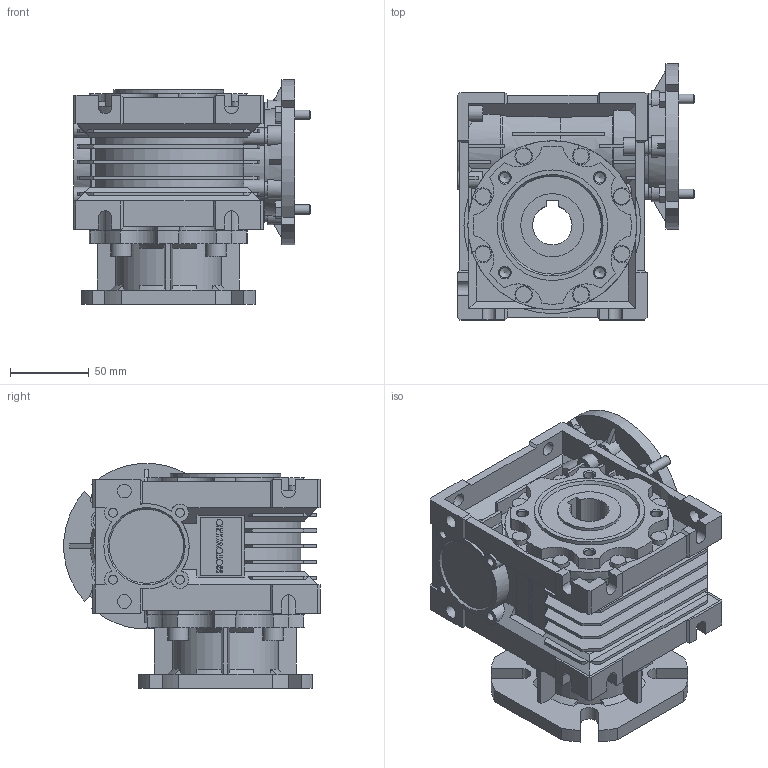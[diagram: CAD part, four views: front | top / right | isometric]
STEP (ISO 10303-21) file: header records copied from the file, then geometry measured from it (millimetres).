
FILE_DESCRIPTION(/* description */ ('STEP AP203'),/* implementation_level */ '2;1');
FILE_NAME(/* name */ 'NMRV0501332512300300NO---_---------------',/* time_stamp */ '2025-11-21T01:18:28+01:00',/* author */ ('License CC BY-ND 4.0'),/* organization */ ('CADENAS'),/* preprocessor_version */ 'ST-DEVELOPER v20',/* originating_system */ 'PARTsolutions',/* authorisation */ ' ');
FILE_SCHEMA (('CONFIG_CONTROL_DESIGN'));
Length unit declared in the file: millimetre
Products named in the file (6): NMRV0501332512300300NO---(---------------); Gear unit 50; 050-25 (92)alc-n; FU 50FA; VB 050-14 (14); 50-71 B14
Assembly tree (5 placements, depth 2):
  NMRV0501332512300300NO---(---------------)
    Gear unit 50
    050-25 (92)alc-n
    FU 50FA
    VB 050-14 (14)
    50-71 B14
Bounding box: 150 x 162.33 x 142.33 mm (x, y, z)
Volume: 1177922.8 mm3; surface area: 278226.6 mm2
Topology: 5 solids, 10 shells, 1060 faces, 2828 edges, 1845 vertices
Faces by surface type: plane 705, cylinder 257, cone 96, torus 2
Full cylindrical faces by diameter (mm): 3.775 x3, 5.55 x4, 6 x4, 6.647 x8, 8.8 x8, 10 x14, 13 x4, 16 x1, 28 x2, 34 x1, 40 x2, 47 x2, 55 x1, 60 x1, 70 x4, 107 x1
Entity records: 32835 total; most frequent: CARTESIAN_POINT 6401, DIRECTION 5443, ORIENTED_EDGE 5440, EDGE_CURVE 2720, AXIS2_PLACEMENT_3D 1893, VERTEX_POINT 1833, LINE 1657, VECTOR 1657
